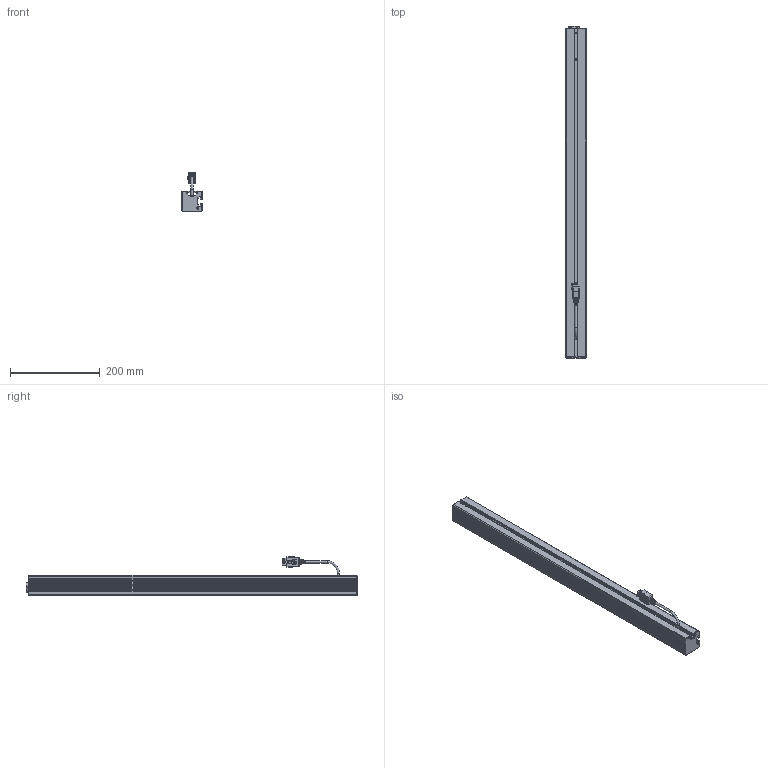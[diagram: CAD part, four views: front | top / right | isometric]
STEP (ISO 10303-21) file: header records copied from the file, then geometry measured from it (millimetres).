
FILE_DESCRIPTION(/* description */ ('Unknown'),/* implementation_level */ '2;1');
FILE_NAME(/* name */ '907.02004_00-Eingefahren',/* time_stamp */ '2022-02-03T15:52:29+01:00',/* author */ ('Unknown'),/* organization */ ('Unknown'),/* preprocessor_version */ 'ST-DEVELOPER v18.1',/* originating_system */ 'Solid Edge',/* authorisation */ 'Unknown');
FILE_SCHEMA (('AUTOMOTIVE_DESIGN {1 0 10303 214 3 1 1}'));
Products named in the file (9): 907.02004; 142.00014; 119.00501; 122.00005; 142.00020; 123.00111; 125.00051; 128.00040; Kabel Molex
Assembly tree (14 placements, depth 2):
  907.02004
    142.00014  x4
    119.00501
    122.00005
    142.00020  x4
    123.00111
    125.00051
    128.00040
    Kabel Molex
Bounding box: 45 x 740 x 86.17 mm (x, y, z)
Volume: 610106.7 mm3; surface area: 499734.1 mm2
Topology: 14 solids, 14 shells, 2748 faces, 7757 edges, 5052 vertices
Faces by surface type: plane 1473, cylinder 938, bspline 175, torus 71, cone 51, sphere 40
Full cylindrical faces by diameter (mm): 2.5 x13, 3 x4, 4 x12, 5 x3, 6.647 x1, 8.376 x2, 17.3 x1, 19 x1, 20.8 x3, 21 x2, 25 x2, 30 x2
Entity records: 94110 total; most frequent: CARTESIAN_POINT 21901, ORIENTED_EDGE 14942, DIRECTION 13725, EDGE_CURVE 7471, VERTEX_POINT 4911, LINE 4645, VECTOR 4645, AXIS2_PLACEMENT_3D 4540
